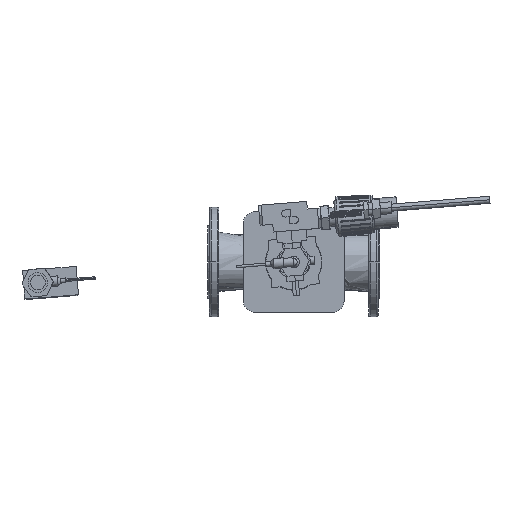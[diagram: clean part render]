
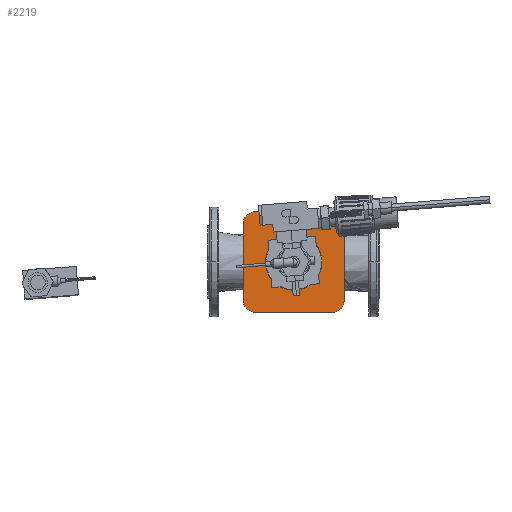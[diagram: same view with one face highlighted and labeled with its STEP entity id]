
A CAD part, front view. The second image highlights one B-rep face of the part: STEP entity #2219.
In plain terms, the highlighted planar face has unit normal (0, -1, 0).
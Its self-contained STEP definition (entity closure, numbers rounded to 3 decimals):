
#1543 = EDGE_CURVE ( 'NONE', #1571, #1574, #19085, .T. ) ;
#1571 = VERTEX_POINT ( 'NONE', #19171 ) ;
#1573 = EDGE_CURVE ( 'NONE', #1574, #1571, #19170, .T. ) ;
#1574 = VERTEX_POINT ( 'NONE', #19165 ) ;
#2185 = EDGE_LOOP ( 'NONE', ( #2203, #2289, #2292, #2295, #2298, #2301, #12455, #12260 ) ) ;
#2203 = ORIENTED_EDGE ( 'NONE', *, *, #2215, .F. ) ;
#2206 = VERTEX_POINT ( 'NONE', #15864 ) ;
#2207 = VERTEX_POINT ( 'NONE', #15863 ) ;
#2215 = EDGE_CURVE ( 'NONE', #2206, #2207, #16013, .T. ) ;
#2219 = ADVANCED_FACE ( 'NONE', ( #16002, #16001 ), #16000, .F. ) ;
#2289 = ORIENTED_EDGE ( 'NONE', *, *, #2290, .F. ) ;
#2290 = EDGE_CURVE ( 'NONE', #2291, #2206, #16179, .T. ) ;
#2291 = VERTEX_POINT ( 'NONE', #16175 ) ;
#2292 = ORIENTED_EDGE ( 'NONE', *, *, #2293, .F. ) ;
#2293 = EDGE_CURVE ( 'NONE', #2294, #2291, #16174, .T. ) ;
#2294 = VERTEX_POINT ( 'NONE', #16169 ) ;
#2295 = ORIENTED_EDGE ( 'NONE', *, *, #2296, .F. ) ;
#2296 = EDGE_CURVE ( 'NONE', #2297, #2294, #16168, .T. ) ;
#2297 = VERTEX_POINT ( 'NONE', #16164 ) ;
#2298 = ORIENTED_EDGE ( 'NONE', *, *, #2299, .F. ) ;
#2299 = EDGE_CURVE ( 'NONE', #2300, #2297, #16163, .T. ) ;
#2300 = VERTEX_POINT ( 'NONE', #16158 ) ;
#2301 = ORIENTED_EDGE ( 'NONE', *, *, #2302, .F. ) ;
#2302 = EDGE_CURVE ( 'NONE', #2303, #2300, #16157, .T. ) ;
#2303 = VERTEX_POINT ( 'NONE', #16153 ) ;
#5183 = DIRECTION ( 'NONE',  ( -1., 0., 0. ) ) ;
#5184 = VECTOR ( 'NONE', #5183, 1000. ) ;
#5185 = CARTESIAN_POINT ( 'NONE',  ( -46.259, 625.146, -85. ) ) ;
#5186 = LINE ( 'NONE', #5185, #5184 ) ;
#6817 = CARTESIAN_POINT ( 'NONE',  ( -46.259, 625.146, -65. ) ) ;
#6825 = CARTESIAN_POINT ( 'NONE',  ( -46.259, 625.146, -85. ) ) ;
#6826 = DIRECTION ( 'NONE',  ( 0., 0., 1. ) ) ;
#6827 = DIRECTION ( 'NONE',  ( 0., 1., 0. ) ) ;
#6828 = AXIS2_PLACEMENT_3D ( 'NONE', #6817, #6827, #6826 ) ;
#6861 = CIRCLE ( 'NONE', #6828, 20. ) ;
#12160 = ORIENTED_EDGE ( 'NONE', *, *, #1573, .T. ) ;
#12161 = ORIENTED_EDGE ( 'NONE', *, *, #1543, .T. ) ;
#12230 = EDGE_CURVE ( 'NONE', #12231, #2303, #6861, .T. ) ;
#12231 = VERTEX_POINT ( 'NONE', #6825 ) ;
#12260 = ORIENTED_EDGE ( 'NONE', *, *, #12261, .F. ) ;
#12261 = EDGE_CURVE ( 'NONE', #2207, #12231, #5186, .T. ) ;
#12262 = EDGE_LOOP ( 'NONE', ( #12160, #12161 ) ) ;
#12455 = ORIENTED_EDGE ( 'NONE', *, *, #12230, .F. ) ;
#15863 = CARTESIAN_POINT ( 'NONE',  ( 83.741, 625.146, -85. ) ) ;
#15864 = CARTESIAN_POINT ( 'NONE',  ( 103.741, 625.146, -65. ) ) ;
#15995 = DIRECTION ( 'NONE',  ( 0., 0., 1. ) ) ;
#15996 = DIRECTION ( 'NONE',  ( 0., 1., 0. ) ) ;
#15997 = CARTESIAN_POINT ( 'NONE',  ( 83.741, 625.146, -65. ) ) ;
#15998 = AXIS2_PLACEMENT_3D ( 'NONE', #15997, #15996, #15995 ) ;
#16000 = PLANE ( 'NONE',  #15998 ) ;
#16001 = FACE_BOUND ( 'NONE', #12262, .T. ) ;
#16002 = FACE_OUTER_BOUND ( 'NONE', #2185, .T. ) ;
#16009 = DIRECTION ( 'NONE',  ( 0., 0., 1. ) ) ;
#16010 = DIRECTION ( 'NONE',  ( 0., 1., 0. ) ) ;
#16011 = CARTESIAN_POINT ( 'NONE',  ( 83.741, 625.146, -65. ) ) ;
#16012 = AXIS2_PLACEMENT_3D ( 'NONE', #16011, #16010, #16009 ) ;
#16013 = CIRCLE ( 'NONE', #16012, 20. ) ;
#16153 = CARTESIAN_POINT ( 'NONE',  ( -66.259, 625.146, -65. ) ) ;
#16154 = DIRECTION ( 'NONE',  ( 0., 0., 1. ) ) ;
#16155 = VECTOR ( 'NONE', #16154, 1000. ) ;
#16156 = CARTESIAN_POINT ( 'NONE',  ( -66.259, 625.146, -65. ) ) ;
#16157 = LINE ( 'NONE', #16156, #16155 ) ;
#16158 = CARTESIAN_POINT ( 'NONE',  ( -66.259, 625.146, 65. ) ) ;
#16159 = DIRECTION ( 'NONE',  ( 0., 0., 1. ) ) ;
#16160 = DIRECTION ( 'NONE',  ( 0., 1., 0. ) ) ;
#16161 = CARTESIAN_POINT ( 'NONE',  ( -46.259, 625.146, 65. ) ) ;
#16162 = AXIS2_PLACEMENT_3D ( 'NONE', #16161, #16160, #16159 ) ;
#16163 = CIRCLE ( 'NONE', #16162, 20. ) ;
#16164 = CARTESIAN_POINT ( 'NONE',  ( -46.259, 625.146, 85. ) ) ;
#16165 = DIRECTION ( 'NONE',  ( 1., 0., 0. ) ) ;
#16166 = VECTOR ( 'NONE', #16165, 1000. ) ;
#16167 = CARTESIAN_POINT ( 'NONE',  ( -46.259, 625.146, 85. ) ) ;
#16168 = LINE ( 'NONE', #16167, #16166 ) ;
#16169 = CARTESIAN_POINT ( 'NONE',  ( 83.741, 625.146, 85. ) ) ;
#16170 = DIRECTION ( 'NONE',  ( 0., 0., 1. ) ) ;
#16171 = DIRECTION ( 'NONE',  ( 0., 1., 0. ) ) ;
#16172 = CARTESIAN_POINT ( 'NONE',  ( 83.741, 625.146, 65. ) ) ;
#16173 = AXIS2_PLACEMENT_3D ( 'NONE', #16172, #16171, #16170 ) ;
#16174 = CIRCLE ( 'NONE', #16173, 20. ) ;
#16175 = CARTESIAN_POINT ( 'NONE',  ( 103.741, 625.146, 65. ) ) ;
#16176 = DIRECTION ( 'NONE',  ( 0., 0., -1. ) ) ;
#16177 = VECTOR ( 'NONE', #16176, 1000. ) ;
#16178 = CARTESIAN_POINT ( 'NONE',  ( 103.741, 625.146, -65. ) ) ;
#16179 = LINE ( 'NONE', #16178, #16177 ) ;
#19081 = DIRECTION ( 'NONE',  ( 0., 0., 1. ) ) ;
#19082 = DIRECTION ( 'NONE',  ( 0., 1., 0. ) ) ;
#19083 = CARTESIAN_POINT ( 'NONE',  ( 18.741, 625.146, 0. ) ) ;
#19084 = AXIS2_PLACEMENT_3D ( 'NONE', #19083, #19082, #19081 ) ;
#19085 = CIRCLE ( 'NONE', #19084, 47.65 ) ;
#19165 = CARTESIAN_POINT ( 'NONE',  ( 18.741, 625.146, -47.65 ) ) ;
#19166 = DIRECTION ( 'NONE',  ( 0., 0., 1. ) ) ;
#19167 = DIRECTION ( 'NONE',  ( 0., 1., 0. ) ) ;
#19168 = CARTESIAN_POINT ( 'NONE',  ( 18.741, 625.146, 0. ) ) ;
#19169 = AXIS2_PLACEMENT_3D ( 'NONE', #19168, #19167, #19166 ) ;
#19170 = CIRCLE ( 'NONE', #19169, 47.65 ) ;
#19171 = CARTESIAN_POINT ( 'NONE',  ( 18.741, 625.146, 47.65 ) ) ;
